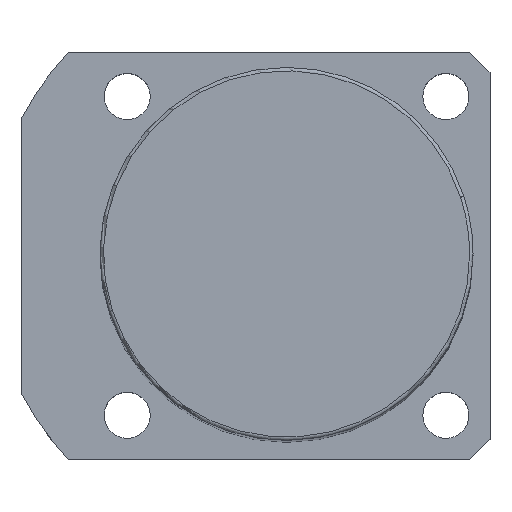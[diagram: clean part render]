
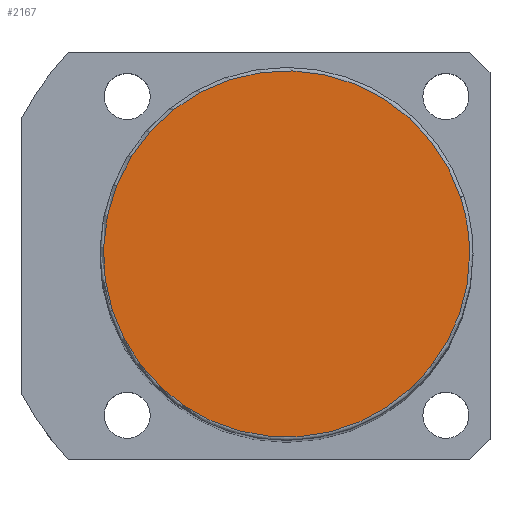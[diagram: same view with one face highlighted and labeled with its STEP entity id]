
A CAD part, top view. The second image highlights one B-rep face of the part: STEP entity #2167.
In plain terms, the highlighted planar face has unit normal (0, 0, 1).
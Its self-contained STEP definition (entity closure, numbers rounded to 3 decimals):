
#2100=CARTESIAN_POINT('',(25.679,8.343,176.0));
#2101=VERTEX_POINT('',#2100);
#2119=CARTESIAN_POINT('',(-25.679,-8.343,176.0));
#2120=VERTEX_POINT('',#2119);
#2128=CARTESIAN_POINT('',(0.0,0.0,176.0));
#2129=DIRECTION('',(0.0,0.0,1.0));
#2130=DIRECTION('',(1.0,0.0,0.0));
#2131=AXIS2_PLACEMENT_3D('',#2128,#2129,#2130);
#2132=CIRCLE('',#2131,27.0);
#2133=EDGE_CURVE('no 2184',#2101,#2120,#2132,.T.);
#2143=CARTESIAN_POINT('',(27.0,0.0,176.0));
#2144=VERTEX_POINT('',#2143);
#2145=CARTESIAN_POINT('',(0.0,0.0,176.0));
#2146=DIRECTION('',(0.0,0.0,1.0));
#2147=DIRECTION('',(1.0,0.0,0.0));
#2148=AXIS2_PLACEMENT_3D('',#2145,#2146,#2147);
#2149=CIRCLE('',#2148,27.0);
#2150=EDGE_CURVE('no 2193',#2144,#2101,#2149,.T.);
#2151=ORIENTED_EDGE('',*,*,#2150,.T.);
#2152=ORIENTED_EDGE('',*,*,#2133,.T.);
#2153=CARTESIAN_POINT('',(0.0,0.0,176.0));
#2154=DIRECTION('',(0.0,0.0,1.0));
#2155=DIRECTION('',(1.0,0.0,0.0));
#2156=AXIS2_PLACEMENT_3D('',#2153,#2154,#2155);
#2157=CIRCLE('',#2156,27.0);
#2158=EDGE_CURVE('no 2199',#2120,#2144,#2157,.T.);
#2159=ORIENTED_EDGE('',*,*,#2158,.T.);
#2160=EDGE_LOOP('',(#2151,#2152,#2159));
#2161=FACE_OUTER_BOUND('',#2160,.T.);
#2162=CARTESIAN_POINT('',(0.0,0.0,176.0));
#2163=DIRECTION('',(0.0,0.0,1.0));
#2164=DIRECTION('',(1.0,0.0,0.0));
#2165=AXIS2_PLACEMENT_3D('',#2162,#2163,#2164);
#2166=PLANE('',#2165);
#2167=ADVANCED_FACE('no 2186',(#2161),#2166,.T.);
